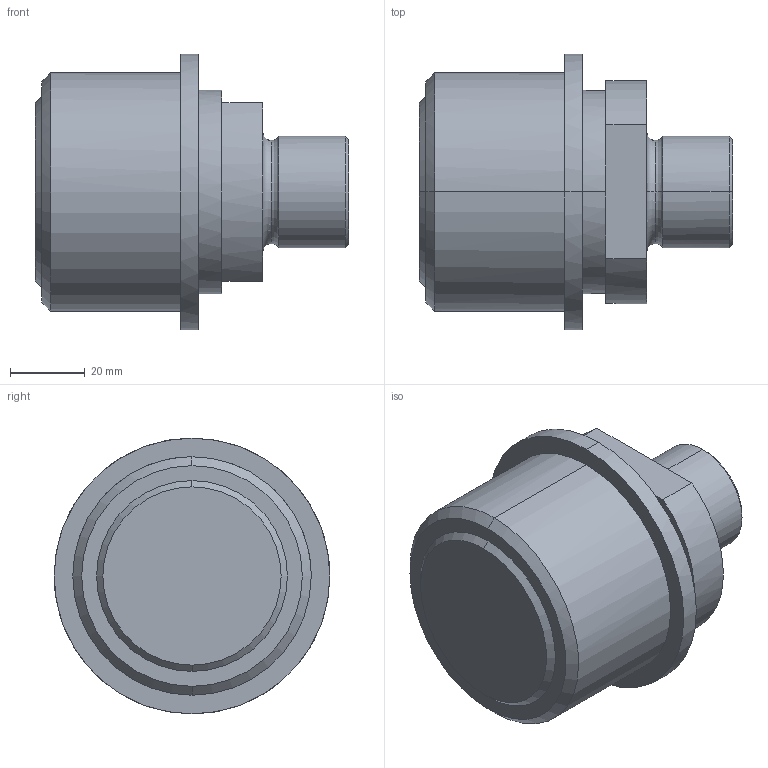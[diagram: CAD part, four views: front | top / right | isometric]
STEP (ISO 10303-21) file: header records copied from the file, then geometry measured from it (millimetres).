
FILE_DESCRIPTION(('CATIA V5 STEP Exchange'),'2;1');
FILE_NAME('C:\Users\Utente\Desktop\IO LAVORO\3D X SITO CF\X SITO\PLASTICA\AGS\AGS3422M30.stp','2021-02-21T19:47:00+00:00',('none'),('none'),'CATIA Version 5 Release 20 GA (IN-10)','CATIA V5 STEP AP203','none');
FILE_SCHEMA(('CONFIG_CONTROL_DESIGN'));
Length unit declared in the file: millimetre
Products named in the file (1): AGS3422M30
Bounding box: 84 x 74 x 74 mm (x, y, z)
Volume: 201491.3 mm3; surface area: 22882 mm2
Topology: 1 solids, 1 shells, 32 faces, 90 edges, 64 vertices
Faces by surface type: plane 12, cylinder 10, cone 6, torus 4
Entity records: 1204 total; most frequent: CARTESIAN_POINT 349, ORIENTED_EDGE 180, DIRECTION 139, EDGE_CURVE 90, AXIS2_PLACEMENT_3D 82, VERTEX_POINT 64, CIRCLE 49, EDGE_LOOP 36
